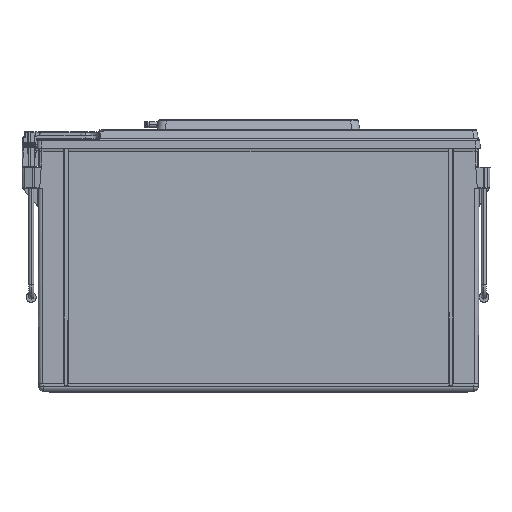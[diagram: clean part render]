
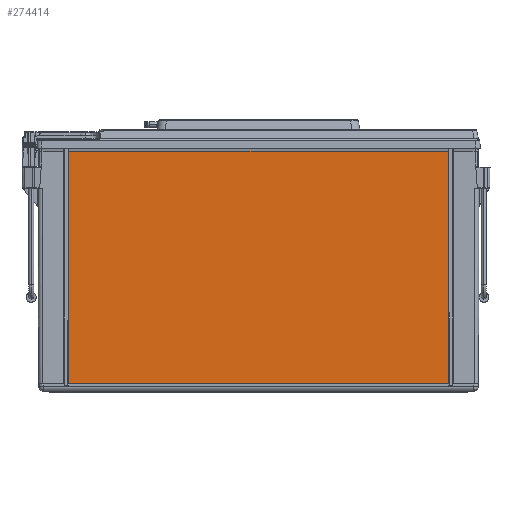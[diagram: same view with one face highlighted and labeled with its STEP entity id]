
A CAD part, top view. The second image highlights one B-rep face of the part: STEP entity #274414.
In plain terms, the highlighted planar face has unit normal (0, -0.004, 1).
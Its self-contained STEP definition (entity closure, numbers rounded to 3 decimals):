
#10023 = ORIENTED_EDGE ( 'NONE', *, *, #178349, .T. ) ;
#10233 = CARTESIAN_POINT ( 'NONE',  ( 8.964, 0.335, 2.383 ) ) ;
#20959 = VERTEX_POINT ( 'NONE', #104467 ) ;
#36609 = EDGE_CURVE ( 'NONE', #20959, #270293, #161599, .T. ) ;
#43553 = EDGE_LOOP ( 'NONE', ( #314588, #140594, #10023, #248426 ) ) ;
#55463 = DIRECTION ( 'NONE',  ( 0.001, -1., -0.003 ) ) ;
#64106 = CARTESIAN_POINT ( 'NONE',  ( 8.951, 11.311, 2.422 ) ) ;
#80115 = LINE ( 'NONE', #282008, #145176 ) ;
#81912 = LINE ( 'NONE', #201855, #146666 ) ;
#86096 = DIRECTION ( 'NONE',  ( 0.001, 1., 0.003 ) ) ;
#90592 = PLANE ( 'NONE',  #144930 ) ;
#104467 = CARTESIAN_POINT ( 'NONE',  ( -8.964, 0.335, 2.383 ) ) ;
#111051 = CARTESIAN_POINT ( 'NONE',  ( -8.951, 11.311, 2.422 ) ) ;
#131266 = CARTESIAN_POINT ( 'NONE',  ( -8.964, 0.335, 2.383 ) ) ;
#135816 = EDGE_CURVE ( 'NONE', #270293, #308194, #81912, .T. ) ;
#139854 = DIRECTION ( 'NONE',  ( 0., -0.003, 1. ) ) ;
#140594 = ORIENTED_EDGE ( 'NONE', *, *, #36609, .F. ) ;
#144930 = AXIS2_PLACEMENT_3D ( 'NONE', #267872, #139854, #322000 ) ;
#145176 = VECTOR ( 'NONE', #55463, 39.37 ) ;
#146666 = VECTOR ( 'NONE', #224858, 39.37 ) ;
#161599 = LINE ( 'NONE', #183004, #309543 ) ;
#162942 = VECTOR ( 'NONE', #282288, 39.37 ) ;
#178349 = EDGE_CURVE ( 'NONE', #20959, #208720, #275830, .T. ) ;
#183004 = CARTESIAN_POINT ( 'NONE',  ( -8.964, 0.335, 2.383 ) ) ;
#201855 = CARTESIAN_POINT ( 'NONE',  ( -8.951, 11.311, 2.422 ) ) ;
#208720 = VERTEX_POINT ( 'NONE', #10233 ) ;
#215375 = FACE_OUTER_BOUND ( 'NONE', #43553, .T. ) ;
#224858 = DIRECTION ( 'NONE',  ( 1., 0., 0. ) ) ;
#248426 = ORIENTED_EDGE ( 'NONE', *, *, #274829, .F. ) ;
#267872 = CARTESIAN_POINT ( 'NONE',  ( -10.666, -0.059, 2.382 ) ) ;
#270293 = VERTEX_POINT ( 'NONE', #111051 ) ;
#274414 = ADVANCED_FACE ( 'NONE', ( #215375 ), #90592, .T. ) ;
#274829 = EDGE_CURVE ( 'NONE', #308194, #208720, #80115, .T. ) ;
#275830 = LINE ( 'NONE', #131266, #162942 ) ;
#282008 = CARTESIAN_POINT ( 'NONE',  ( 8.951, 11.311, 2.422 ) ) ;
#282288 = DIRECTION ( 'NONE',  ( 1., 0., 0. ) ) ;
#308194 = VERTEX_POINT ( 'NONE', #64106 ) ;
#309543 = VECTOR ( 'NONE', #86096, 39.37 ) ;
#314588 = ORIENTED_EDGE ( 'NONE', *, *, #135816, .F. ) ;
#322000 = DIRECTION ( 'NONE',  ( -1., 0., 0. ) ) ;
